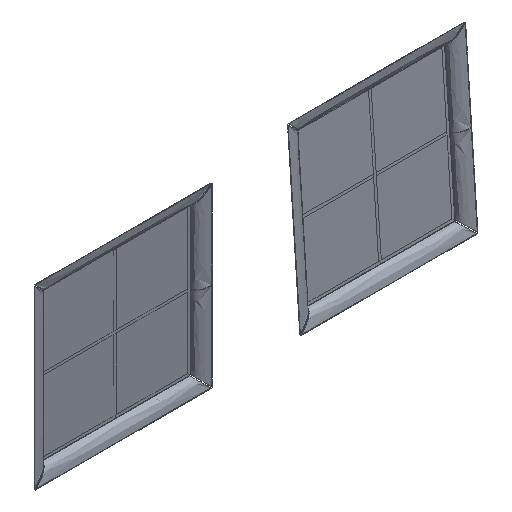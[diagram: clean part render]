
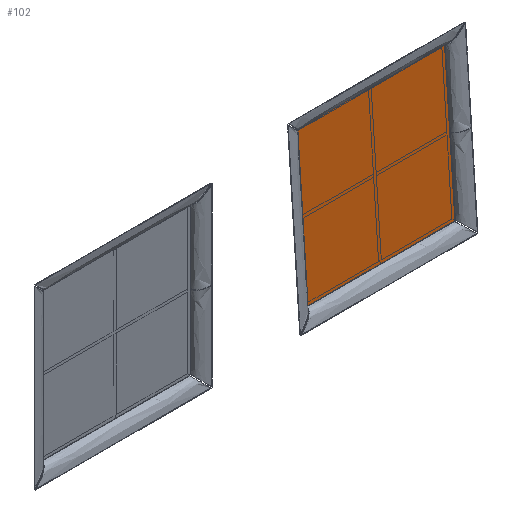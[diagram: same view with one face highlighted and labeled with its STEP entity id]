
A CAD part, isometric view. The second image highlights one B-rep face of the part: STEP entity #102.
In plain terms, the highlighted planar face has unit normal (0, -0.998, 0.07).
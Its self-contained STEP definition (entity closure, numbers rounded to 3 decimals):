
#102=ADVANCED_FACE('',(#297),#2762,.T.);
#297=FACE_OUTER_BOUND('',#494,.T.);
#494=EDGE_LOOP('',(#862,#863,#864,#865,#866,#867,#868,#869));
#862=ORIENTED_EDGE('',*,*,#1655,.T.);
#863=ORIENTED_EDGE('',*,*,#1669,.T.);
#864=ORIENTED_EDGE('',*,*,#1668,.T.);
#865=ORIENTED_EDGE('',*,*,#1667,.T.);
#866=ORIENTED_EDGE('',*,*,#1666,.T.);
#867=ORIENTED_EDGE('',*,*,#1665,.T.);
#868=ORIENTED_EDGE('',*,*,#1664,.T.);
#869=ORIENTED_EDGE('',*,*,#1663,.T.);
#1655=EDGE_CURVE('',#2527,#2541,#2110,.T.);
#1663=EDGE_CURVE('',#2535,#2527,#2118,.T.);
#1664=EDGE_CURVE('',#2536,#2535,#2119,.T.);
#1665=EDGE_CURVE('',#2537,#2536,#2120,.T.);
#1666=EDGE_CURVE('',#2538,#2537,#2121,.T.);
#1667=EDGE_CURVE('',#2539,#2538,#2122,.T.);
#1668=EDGE_CURVE('',#2540,#2539,#2123,.T.);
#1669=EDGE_CURVE('',#2541,#2540,#2124,.T.);
#2110=B_SPLINE_CURVE_WITH_KNOTS('',1,(#5330,#5331),.UNSPECIFIED.,.F.,.F.,
(2,2),(489.304,490.506),.UNSPECIFIED.);
#2118=B_SPLINE_CURVE_WITH_KNOTS('',1,(#5346,#5347),.UNSPECIFIED.,.F.,.F.,
(2,2),(981.012,1143.312),.UNSPECIFIED.);
#2119=B_SPLINE_CURVE_WITH_KNOTS('',1,(#5348,#5349),.UNSPECIFIED.,.F.,.F.,
(2,2),(979.81,981.012),.UNSPECIFIED.);
#2120=B_SPLINE_CURVE_WITH_KNOTS('',1,(#5350,#5351),.UNSPECIFIED.,.F.,.F.,
(2,2),(817.51,979.81),.UNSPECIFIED.);
#2121=B_SPLINE_CURVE_WITH_KNOTS('',1,(#5352,#5353),.UNSPECIFIED.,.F.,.F.,
(2,2),(816.308,817.51),.UNSPECIFIED.);
#2122=B_SPLINE_CURVE_WITH_KNOTS('',1,(#5354,#5355),.UNSPECIFIED.,.F.,.F.,
(2,2),(654.008,816.308),.UNSPECIFIED.);
#2123=B_SPLINE_CURVE_WITH_KNOTS('',1,(#5356,#5357),.UNSPECIFIED.,.F.,.F.,
(2,2),(652.806,654.008),.UNSPECIFIED.);
#2124=B_SPLINE_CURVE_WITH_KNOTS('',1,(#5358,#5359),.UNSPECIFIED.,.F.,.F.,
(2,2),(490.506,652.806),.UNSPECIFIED.);
#2527=VERTEX_POINT('',#5311);
#2535=VERTEX_POINT('',#5319);
#2536=VERTEX_POINT('',#5320);
#2537=VERTEX_POINT('',#5321);
#2538=VERTEX_POINT('',#5322);
#2539=VERTEX_POINT('',#5323);
#2540=VERTEX_POINT('',#5324);
#2541=VERTEX_POINT('',#5325);
#2762=PLANE('',#3045);
#3045=AXIS2_PLACEMENT_3D('',#5302,#3137,$);
#3137=DIRECTION('',(0.,-0.998,0.07));
#5302=CARTESIAN_POINT('',(2913.523,61.951,-83.93));
#5311=CARTESIAN_POINT('',(2922.023,176.352,1552.075));
#5319=CARTESIAN_POINT('',(4545.023,176.352,1552.075));
#5320=CARTESIAN_POINT('',(4553.523,175.759,1543.596));
#5321=CARTESIAN_POINT('',(4553.523,62.544,-75.451));
#5322=CARTESIAN_POINT('',(4545.023,61.951,-83.93));
#5323=CARTESIAN_POINT('',(2922.023,61.951,-83.93));
#5324=CARTESIAN_POINT('',(2913.523,62.544,-75.451));
#5325=CARTESIAN_POINT('',(2913.523,175.759,1543.596));
#5330=CARTESIAN_POINT('',(2922.023,176.352,1552.075));
#5331=CARTESIAN_POINT('',(2913.523,175.759,1543.596));
#5346=CARTESIAN_POINT('',(4545.023,176.352,1552.075));
#5347=CARTESIAN_POINT('',(2922.023,176.352,1552.075));
#5348=CARTESIAN_POINT('',(4553.523,175.759,1543.596));
#5349=CARTESIAN_POINT('',(4545.023,176.352,1552.075));
#5350=CARTESIAN_POINT('',(4553.523,62.544,-75.451));
#5351=CARTESIAN_POINT('',(4553.523,175.759,1543.596));
#5352=CARTESIAN_POINT('',(4545.023,61.951,-83.93));
#5353=CARTESIAN_POINT('',(4553.523,62.544,-75.451));
#5354=CARTESIAN_POINT('',(2922.023,61.951,-83.93));
#5355=CARTESIAN_POINT('',(4545.023,61.951,-83.93));
#5356=CARTESIAN_POINT('',(2913.523,62.544,-75.451));
#5357=CARTESIAN_POINT('',(2922.023,61.951,-83.93));
#5358=CARTESIAN_POINT('',(2913.523,175.759,1543.596));
#5359=CARTESIAN_POINT('',(2913.523,62.544,-75.451));
